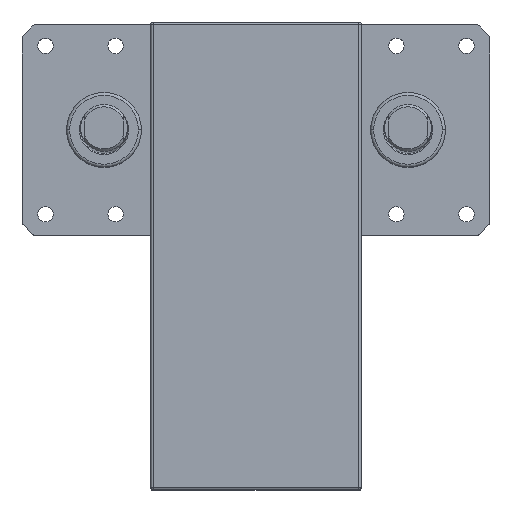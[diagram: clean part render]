
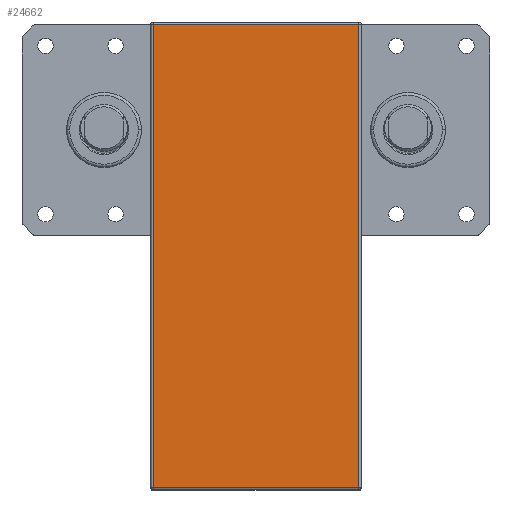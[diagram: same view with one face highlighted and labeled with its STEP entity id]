
A CAD part, top view. The second image highlights one B-rep face of the part: STEP entity #24662.
In plain terms, the highlighted planar face has unit normal (0, 0, 1).
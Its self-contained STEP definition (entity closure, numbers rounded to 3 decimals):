
#2300 = DIRECTION ( 'NONE',  ( 1., 0., 0. ) ) ;
#3171 = EDGE_CURVE ( 'NONE', #16778, #6186, #5839, .T. ) ;
#5762 = CARTESIAN_POINT ( 'NONE',  ( -44., -154., 663. ) ) ;
#5839 = LINE ( 'NONE', #28524, #34306 ) ;
#6186 = VERTEX_POINT ( 'NONE', #12634 ) ;
#7727 = ORIENTED_EDGE ( 'NONE', *, *, #13032, .T. ) ;
#7746 = CARTESIAN_POINT ( 'NONE',  ( -44., -154., 663. ) ) ;
#12634 = CARTESIAN_POINT ( 'NONE',  ( -44., 44., 663. ) ) ;
#13032 = EDGE_CURVE ( 'NONE', #6186, #36403, #17729, .T. ) ;
#13765 = DIRECTION ( 'NONE',  ( -1., 0., 0. ) ) ;
#14338 = CARTESIAN_POINT ( 'NONE',  ( 44., 44., 663. ) ) ;
#16778 = VERTEX_POINT ( 'NONE', #18485 ) ;
#17151 = ORIENTED_EDGE ( 'NONE', *, *, #20190, .T. ) ;
#17729 = LINE ( 'NONE', #5762, #46223 ) ;
#18485 = CARTESIAN_POINT ( 'NONE',  ( 44., 44., 663. ) ) ;
#20190 = EDGE_CURVE ( 'NONE', #40669, #16778, #24253, .T. ) ;
#20501 = CARTESIAN_POINT ( 'NONE',  ( 44., -154., 663. ) ) ;
#23625 = FACE_OUTER_BOUND ( 'NONE', #29925, .T. ) ;
#24183 = DIRECTION ( 'NONE',  ( 1., 0., 0. ) ) ;
#24253 = LINE ( 'NONE', #14338, #32950 ) ;
#24578 = DIRECTION ( 'NONE',  ( 0., 0., 1. ) ) ;
#24662 = ADVANCED_FACE ( 'NONE', ( #23625 ), #46858, .T. ) ;
#24694 = ORIENTED_EDGE ( 'NONE', *, *, #3171, .T. ) ;
#25217 = EDGE_CURVE ( 'NONE', #36403, #40669, #38679, .T. ) ;
#26078 = ORIENTED_EDGE ( 'NONE', *, *, #25217, .T. ) ;
#26339 = AXIS2_PLACEMENT_3D ( 'NONE', #31857, #24578, #2300 ) ;
#28524 = CARTESIAN_POINT ( 'NONE',  ( -44., 44., 663. ) ) ;
#29925 = EDGE_LOOP ( 'NONE', ( #7727, #26078, #17151, #24694 ) ) ;
#31436 = DIRECTION ( 'NONE',  ( 0., -1., 0. ) ) ;
#31857 = CARTESIAN_POINT ( 'NONE',  ( -44., -154., 663. ) ) ;
#32950 = VECTOR ( 'NONE', #36735, 1000. ) ;
#34306 = VECTOR ( 'NONE', #13765, 1000. ) ;
#36403 = VERTEX_POINT ( 'NONE', #7746 ) ;
#36735 = DIRECTION ( 'NONE',  ( 0., 1., 0. ) ) ;
#36891 = CARTESIAN_POINT ( 'NONE',  ( 44., -154., 663. ) ) ;
#38679 = LINE ( 'NONE', #20501, #47439 ) ;
#40669 = VERTEX_POINT ( 'NONE', #36891 ) ;
#46223 = VECTOR ( 'NONE', #31436, 1000. ) ;
#46858 = PLANE ( 'NONE',  #26339 ) ;
#47439 = VECTOR ( 'NONE', #24183, 1000. ) ;
